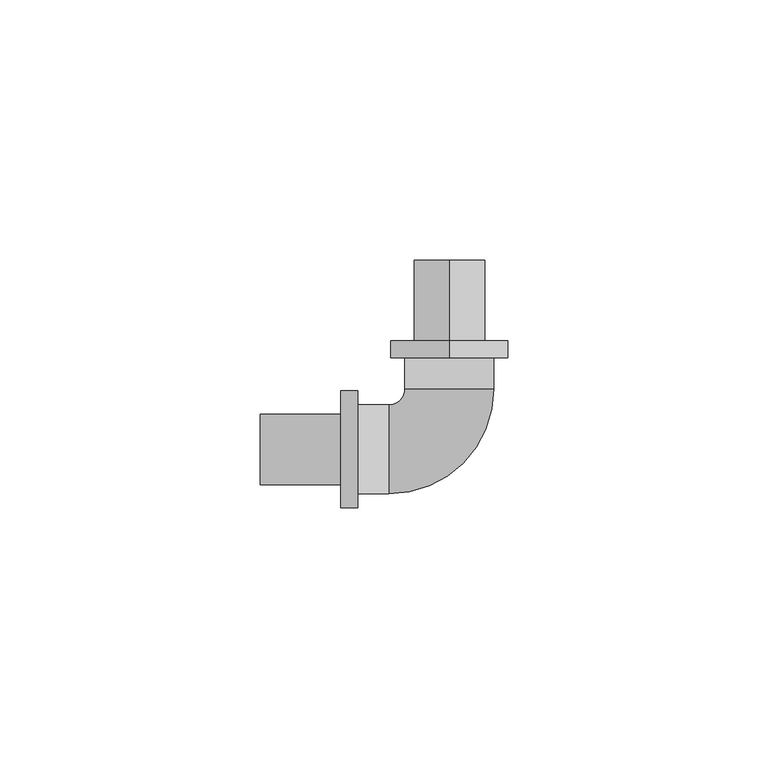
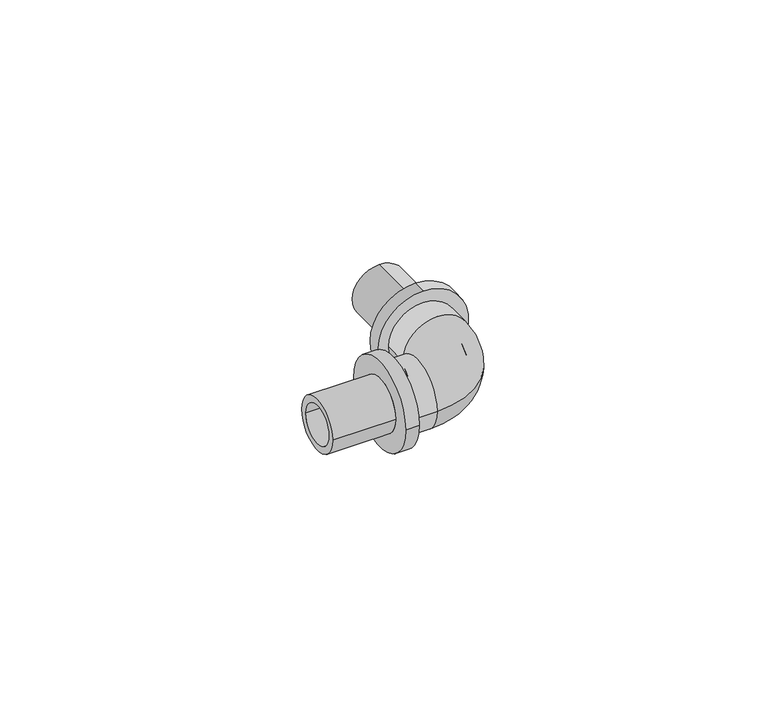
"""IFC4 building model written with IfcOpenShell, lengths in millimetres: pipe fitting geometry, RAUTITAN_Corner_RX+ : RTI RX+ C DE."""

from ifc_helpers import new_model, si_unit, point, frame, origin, place, context, project, spatial, polyline, circle_curve, ellipse_curve, trimmed, source, transform, mapped, element, save
from ifc_brep_helpers import plane_surface, cylinder_surface, revolved_surface, advanced_brep


def pipe_fitting_bdc09fba(model_context):
    return source(origin(), model_context, "Body", "AdvancedBrep", [
        advanced_brep(
        [(-17.6, 8.55, 0.0), (-17.6, -8.55, 0.0), (-17.6, 4.95, 0.0), (-17.6, -4.95, 0.0), (-11.65, -4.95, 0.0), (-11.65, 0.0, -4.95), (-11.65, 4.95, 0.0), (-11.65, 0.0, 4.95), (-11.65, -8.55, 0.0), (-11.65, 8.55, 0.0), (8.55, 17.6, 0.0), (-8.55, 17.6, 0.0), (4.95, 17.6, 0.0), (-4.95, 17.6, 0.0), (-4.95, 11.65, 0.0), (0.0, 11.65, -4.95), (4.95, 11.65, 0.0), (0.0, 11.65, 4.95), (-8.55, 11.65, 0.0), (8.55, 11.65, 0.0)],
        [
            (0, 1, circle_curve(frame((-17.6, 0.0, 0.0), z_axis=(-1.0, 0.0, 0.0), x_axis=(0.0, -1.0, 0.0)), 8.55)),
            (1, 0, circle_curve(frame((-17.6, 0.0, 0.0), z_axis=(-1.0, 0.0, 0.0), x_axis=(0.0, -1.0, 0.0)), 8.55)),
            (2, 3, circle_curve(frame((-17.6, 0.0, 0.0), z_axis=(1.0, 0.0, 0.0), x_axis=(0.0, -1.0, 0.0)), 4.95)),
            (3, 2, circle_curve(frame((-17.6, 0.0, 0.0), z_axis=(1.0, 0.0, 0.0), x_axis=(0.0, -1.0, 0.0)), 4.95)),
            (3, 4),
            (4, 5, circle_curve(frame((-11.65, 0.0, 0.0), z_axis=(1.0, 0.0, 0.0), x_axis=(0.0, -1.0, 0.0)), 4.95)),
            (5, 6, circle_curve(frame((-11.65, 0.0, 0.0), z_axis=(1.0, 0.0, 0.0), x_axis=(0.0, -1.0, 0.0)), 4.95)),
            (6, 2),
            (6, 7, circle_curve(frame((-11.65, 0.0, 0.0), z_axis=(1.0, 0.0, 0.0), x_axis=(0.0, -1.0, 0.0)), 4.95)),
            (7, 4, circle_curve(frame((-11.65, 0.0, 0.0), z_axis=(1.0, 0.0, 0.0), x_axis=(0.0, -1.0, 0.0)), 4.95)),
            (1, 8),
            (8, 9, circle_curve(frame((-11.65, 0.0, 0.0), z_axis=(-1.0, 0.0, 0.0), x_axis=(0.0, -1.0, 0.0)), 8.55)),
            (9, 0),
            (9, 8, circle_curve(frame((-11.65, 0.0, 0.0), z_axis=(-1.0, 0.0, 0.0), x_axis=(0.0, -1.0, 0.0)), 8.55)),
            (10, 11, circle_curve(frame((0.0, 17.6, 0.0), z_axis=(0.0, 1.0, 0.0), x_axis=(-1.0, 0.0, 0.0)), 8.55)),
            (11, 10, circle_curve(frame((0.0, 17.6, 0.0), z_axis=(0.0, 1.0, 0.0), x_axis=(-1.0, 0.0, 0.0)), 8.55)),
            (12, 13, circle_curve(frame((0.0, 17.6, 0.0), z_axis=(0.0, -1.0, 0.0), x_axis=(-1.0, 0.0, 0.0)), 4.95)),
            (13, 12, circle_curve(frame((0.0, 17.6, 0.0), z_axis=(0.0, -1.0, 0.0), x_axis=(-1.0, 0.0, 0.0)), 4.95)),
            (13, 14),
            (14, 15, circle_curve(frame((0.0, 11.65, 0.0), z_axis=(0.0, -1.0, 0.0), x_axis=(-1.0, 0.0, 0.0)), 4.95)),
            (15, 16, circle_curve(frame((0.0, 11.65, 0.0), z_axis=(0.0, -1.0, 0.0), x_axis=(-1.0, 0.0, 0.0)), 4.95)),
            (16, 12),
            (16, 17, circle_curve(frame((0.0, 11.65, 0.0), z_axis=(0.0, -1.0, 0.0), x_axis=(-1.0, 0.0, 0.0)), 4.95)),
            (17, 14, circle_curve(frame((0.0, 11.65, 0.0), z_axis=(0.0, -1.0, 0.0), x_axis=(-1.0, 0.0, 0.0)), 4.95)),
            (11, 18),
            (18, 19, circle_curve(frame((0.0, 11.65, 0.0), z_axis=(0.0, 1.0, 0.0), x_axis=(-1.0, 0.0, 0.0)), 8.55)),
            (19, 10),
            (19, 18, circle_curve(frame((0.0, 11.65, 0.0), z_axis=(0.0, 1.0, 0.0), x_axis=(-1.0, 0.0, 0.0)), 8.55)),
            (14, 6, circle_curve(frame((-11.65, 11.65, 0.0), z_axis=(0.0, 0.0, -1.0), x_axis=(0.0, -1.0, 0.0)), 6.7)),
            (4, 16, circle_curve(frame((-11.65, 11.65, 0.0), z_axis=(0.0, 0.0, 1.0), x_axis=(0.0, -1.0, 0.0)), 16.6)),
            (18, 9, circle_curve(frame((-11.65, 11.65, 0.0), z_axis=(0.0, 0.0, -1.0), x_axis=(0.0, -1.0, 0.0)), 3.1)),
            (8, 19, circle_curve(frame((-11.65, 11.65, 0.0), z_axis=(0.0, 0.0, 1.0), x_axis=(0.0, -1.0, 0.0)), 20.2)),
        ],
        [
            plane_surface(frame((-17.6, 0.0, 0.0), z_axis=(-1.0, 0.0, 0.0), x_axis=(0.0, 0.0, 1.0))),
            revolved_surface(polyline([(-17.6, -4.95, 0.0), (-11.65, -4.95, 0.0)]), (-11.65, 0.0, 0.0), (-1.0, 0.0, 0.0)),
            cylinder_surface(frame((-11.65, 0.0, 0.0), z_axis=(1.0, 0.0, 0.0), x_axis=(0.0, -1.0, 0.0)), 8.55),
            plane_surface(frame((0.0, 17.6, 0.0), z_axis=(0.0, 1.0, 0.0), x_axis=(0.0, 0.0, 1.0))),
            revolved_surface(polyline([(-4.95, 17.6, 0.0), (-4.95, 11.65, 0.0)]), (0.0, 11.65, 0.0), (0.0, 1.0, 0.0)),
            cylinder_surface(frame((0.0, 11.65, 0.0), z_axis=(0.0, -1.0, 0.0), x_axis=(-1.0, 0.0, 0.0)), 8.55),
            revolved_surface(trimmed(ellipse_curve(frame((-11.65, 0.0, 0.0), z_axis=(1.0, 0.0, 0.0), x_axis=(0.0, 1.0, 0.0)), 4.95, 4.95), [point((-11.65, -4.95, 0.0))], [point((-11.65, 4.95, 0.0))], True, "CARTESIAN"), (-11.65, 11.65, 0.0), (0.0, 0.0, 1.0)),
            revolved_surface(trimmed(ellipse_curve(frame((-11.65, 0.0, 0.0), z_axis=(1.0, 0.0, 0.0), x_axis=(0.0, 1.0, 0.0)), 4.95, 4.95), [point((-11.65, 4.95, 0.0))], [point((-11.65, -4.95, 0.0))], True, "CARTESIAN"), (-11.65, 11.65, 0.0), (0.0, 0.0, 1.0)),
            revolved_surface(trimmed(ellipse_curve(frame((-11.65, 0.0, 0.0), z_axis=(-1.0, 0.0, 0.0), x_axis=(0.0, 1.0, 0.0)), 8.55, 8.55), [point((-11.65, -8.55, 0.0))], [point((-11.65, 8.55, 0.0))], True, "CARTESIAN"), (-11.65, 11.65, 0.0), (0.0, 0.0, 1.0)),
            revolved_surface(trimmed(ellipse_curve(frame((-11.65, 0.0, 0.0), z_axis=(-1.0, 0.0, 0.0), x_axis=(0.0, 1.0, 0.0)), 8.55, 8.55), [point((-11.65, 8.55, 0.0))], [point((-11.65, -8.55, 0.0))], True, "CARTESIAN"), (-11.65, 11.65, 0.0), (0.0, 0.0, 1.0)),
        ],
        [
            (0, [[1, 2], [3, 4]]),
            (1, [[-4, 5, 6, 7, 8]]),
            (1, [[-3, -8, 9, 10, -5]]),
            (2, [[-2, 11, 12, 13]]),
            (2, [[-1, -13, 14, -11]]),
            (3, [[15, 16], [17, 18]]),
            (4, [[-18, 19, 20, 21, 22]]),
            (4, [[-17, -22, 23, 24, -19]]),
            (5, [[-16, 25, 26, 27]]),
            (5, [[-15, -27, 28, -25]]),
            (6, [[29, -7, -6, 30, -21, -20]]),
            (7, [[-29, -24, -23, -30, -10, -9]]),
            (8, [[31, -12, 32, -26]]),
            (9, [[-31, -28, -32, -14]]),
        ],
    ),
        advanced_brep(
        [(-20.9, -11.25, 0.0), (-20.9, 11.25, 0.0), (-17.6, 11.25, 0.0), (-17.6, -11.25, 0.0), (-36.4, -6.75, 0.0), (-36.4, 6.75, 0.0), (-20.9, 6.75, 0.0), (-20.9, -6.75, 0.0), (-17.6, -4.95, 0.0), (-17.6, 4.95, 0.0), (-36.4, 4.95, 0.0), (-36.4, -4.95, 0.0)],
        [
            (0, 1, circle_curve(frame((-20.9, 0.0, 0.0), z_axis=(1.0, 0.0, 0.0), x_axis=(0.0, 1.0, 0.0)), 11.25)),
            (1, 2),
            (2, 3, circle_curve(frame((-17.6, 0.0, 0.0), z_axis=(-1.0, 0.0, 0.0), x_axis=(0.0, 1.0, 0.0)), 11.25)),
            (3, 0),
            (4, 5, circle_curve(frame((-36.4, 0.0, 0.0), z_axis=(1.0, 0.0, 0.0), x_axis=(0.0, 1.0, 0.0)), 6.75)),
            (5, 6),
            (6, 7, circle_curve(frame((-20.9, 0.0, 0.0), z_axis=(-1.0, 0.0, 0.0), x_axis=(0.0, 1.0, 0.0)), 6.75)),
            (7, 4),
            (8, 9, circle_curve(frame((-17.6, 0.0, 0.0), z_axis=(1.0, 0.0, 0.0), x_axis=(0.0, 1.0, 0.0)), 4.95)),
            (9, 10),
            (10, 11, circle_curve(frame((-36.4, 0.0, 0.0), z_axis=(-1.0, 0.0, 0.0), x_axis=(0.0, 1.0, 0.0)), 4.95)),
            (11, 8),
            (1, 0, circle_curve(frame((-20.9, 0.0, 0.0), z_axis=(1.0, 0.0, 0.0), x_axis=(0.0, -1.0, 0.0)), 11.25)),
            (3, 2, circle_curve(frame((-17.6, 0.0, 0.0), z_axis=(-1.0, 0.0, 0.0), x_axis=(0.0, -1.0, 0.0)), 11.25)),
            (6, 7, circle_curve(frame((-20.9, 0.0, 0.0), z_axis=(1.0, 0.0, 0.0), x_axis=(0.0, -1.0, 0.0)), 6.75)),
            (5, 4, circle_curve(frame((-36.4, 0.0, 0.0), z_axis=(1.0, 0.0, 0.0), x_axis=(0.0, -1.0, 0.0)), 6.75)),
            (10, 11, circle_curve(frame((-36.4, 0.0, 0.0), z_axis=(1.0, 0.0, 0.0), x_axis=(0.0, -1.0, 0.0)), 4.95)),
            (9, 8, circle_curve(frame((-17.6, 0.0, 0.0), z_axis=(1.0, 0.0, 0.0), x_axis=(0.0, -1.0, 0.0)), 4.95)),
        ],
        [
            cylinder_surface(frame((-17.6, 0.0, 0.0), z_axis=(-1.0, 0.0, 0.0), x_axis=(0.0, 1.0, 0.0)), 11.25),
            cylinder_surface(frame((-17.6, 0.0, 0.0), z_axis=(-1.0, 0.0, 0.0), x_axis=(0.0, 1.0, 0.0)), 6.75),
            revolved_surface(polyline([(-36.4, 4.95, 0.0), (-17.6, 4.95, 0.0)]), (-17.6, 0.0, 0.0), (-1.0, 0.0, 0.0)),
            cylinder_surface(frame((-17.6, 0.0, 0.0), z_axis=(-1.0, 0.0, 0.0), x_axis=(0.0, -1.0, 0.0)), 11.25),
            plane_surface(frame((-20.9, 0.0, 0.0), z_axis=(-1.0, 0.0, 0.0), x_axis=(0.0, -1.0, 0.0))),
            cylinder_surface(frame((-17.6, 0.0, 0.0), z_axis=(-1.0, 0.0, 0.0), x_axis=(0.0, -1.0, 0.0)), 6.75),
            plane_surface(frame((-36.4, 0.0, 0.0), z_axis=(-1.0, 0.0, 0.0), x_axis=(0.0, -1.0, 0.0))),
            revolved_surface(polyline([(-36.4, -4.95, 0.0), (-17.6, -4.95, 0.0)]), (-17.6, 0.0, 0.0), (-1.0, 0.0, 0.0)),
            plane_surface(frame((-17.6, 0.0, 0.0), z_axis=(1.0, 0.0, 0.0), x_axis=(0.0, -1.0, 0.0))),
        ],
        [
            (0, [[1, 2, 3, 4]]),
            (1, [[5, 6, 7, 8]]),
            (2, [[9, 10, 11, 12]]),
            (3, [[13, -4, 14, -2]]),
            (4, [[-13, -1], [15, -7]]),
            (5, [[16, -8, -15, -6]]),
            (6, [[-16, -5], [17, -11]]),
            (7, [[18, -12, -17, -10]]),
            (8, [[-14, -3], [-18, -9]]),
        ],
    ),
        advanced_brep(
        [(0.0, 20.9, 11.6749044), (0.0, 20.9, -10.8250956), (0.0, 17.6, -10.8250956), (0.0, 17.6, 11.6749044), (0.0, 36.4, 7.1749044), (0.0, 36.4, -6.3250956), (0.0, 20.9, -6.3250956), (0.0, 20.9, 7.1749044), (0.0, 17.6, 5.3749044), (0.0, 17.6, -4.5250956), (0.0, 36.4, -4.5250956), (0.0, 36.4, 5.3749044)],
        [
            (0, 1, circle_curve(frame((0.0, 20.9, 0.4249044), z_axis=(0.0, -1.0, 0.0), x_axis=(0.0, 0.0, -1.0)), 11.25)),
            (1, 2),
            (2, 3, circle_curve(frame((0.0, 17.6, 0.4249044), z_axis=(0.0, 1.0, 0.0), x_axis=(0.0, 0.0, -1.0)), 11.25)),
            (3, 0),
            (4, 5, circle_curve(frame((0.0, 36.4, 0.4249044), z_axis=(0.0, -1.0, 0.0), x_axis=(0.0, 0.0, -1.0)), 6.75)),
            (5, 6),
            (6, 7, circle_curve(frame((0.0, 20.9, 0.4249044), z_axis=(0.0, 1.0, 0.0), x_axis=(0.0, 0.0, -1.0)), 6.75)),
            (7, 4),
            (8, 9, circle_curve(frame((0.0, 17.6, 0.4249044), z_axis=(0.0, -1.0, 0.0), x_axis=(0.0, 0.0, -1.0)), 4.95)),
            (9, 10),
            (10, 11, circle_curve(frame((0.0, 36.4, 0.4249044), z_axis=(0.0, 1.0, 0.0), x_axis=(0.0, 0.0, -1.0)), 4.95)),
            (11, 8),
            (1, 0, circle_curve(frame((0.0, 20.9, 0.4249044), z_axis=(0.0, -1.0, 0.0), x_axis=(0.0, 0.0, 1.0)), 11.25)),
            (3, 2, circle_curve(frame((0.0, 17.6, 0.4249044), z_axis=(0.0, 1.0, 0.0), x_axis=(0.0, 0.0, 1.0)), 11.25)),
            (6, 7, circle_curve(frame((0.0, 20.9, 0.4249044), z_axis=(0.0, -1.0, 0.0), x_axis=(0.0, 0.0, 1.0)), 6.75)),
            (5, 4, circle_curve(frame((0.0, 36.4, 0.4249044), z_axis=(0.0, -1.0, 0.0), x_axis=(0.0, 0.0, 1.0)), 6.75)),
            (10, 11, circle_curve(frame((0.0, 36.4, 0.4249044), z_axis=(0.0, -1.0, 0.0), x_axis=(0.0, 0.0, 1.0)), 4.95)),
            (9, 8, circle_curve(frame((0.0, 17.6, 0.4249044), z_axis=(0.0, -1.0, 0.0), x_axis=(0.0, 0.0, 1.0)), 4.95)),
        ],
        [
            cylinder_surface(frame((0.0, 17.6, 0.4249044), z_axis=(0.0, 1.0, 0.0), x_axis=(0.0, 0.0, -1.0)), 11.25),
            cylinder_surface(frame((0.0, 17.6, 0.4249044), z_axis=(0.0, 1.0, 0.0), x_axis=(0.0, 0.0, -1.0)), 6.75),
            revolved_surface(polyline([(0.0, 36.4, -4.5250956), (0.0, 17.6, -4.5250956)]), (0.0, 17.6, 0.4249044), (0.0, 1.0, 0.0)),
            cylinder_surface(frame((0.0, 17.6, 0.4249044), z_axis=(0.0, 1.0, 0.0), x_axis=(0.0, 0.0, 1.0)), 11.25),
            plane_surface(frame((0.0, 20.9, 0.4249044), z_axis=(0.0, 1.0, 0.0), x_axis=(0.0, 0.0, 1.0))),
            cylinder_surface(frame((0.0, 17.6, 0.4249044), z_axis=(0.0, 1.0, 0.0), x_axis=(0.0, 0.0, 1.0)), 6.75),
            plane_surface(frame((0.0, 36.4, 0.4249044), z_axis=(0.0, 1.0, 0.0), x_axis=(0.0, 0.0, 1.0))),
            revolved_surface(polyline([(0.0, 36.4, 5.3749044), (0.0, 17.6, 5.3749044)]), (0.0, 17.6, 0.4249044), (0.0, 1.0, 0.0)),
            plane_surface(frame((0.0, 17.6, 0.4249044), z_axis=(0.0, -1.0, 0.0), x_axis=(0.0, 0.0, 1.0))),
        ],
        [
            (0, [[1, 2, 3, 4]]),
            (1, [[5, 6, 7, 8]]),
            (2, [[9, 10, 11, 12]]),
            (3, [[13, -4, 14, -2]]),
            (4, [[-13, -1], [15, -7]]),
            (5, [[16, -8, -15, -6]]),
            (6, [[-16, -5], [17, -11]]),
            (7, [[18, -12, -17, -10]]),
            (8, [[-14, -3], [-18, -9]]),
        ],
    ),
    ])


if __name__ == "__main__":
    model = new_model("IFC4")
    model_context = context("Model", 3, world=origin())
    ifc_project = project(units=[si_unit("LENGTHUNIT", "METRE", prefix="MILLI")], contexts=[model_context])
    site = spatial("IfcSite", under=ifc_project)
    building = spatial("IfcBuilding", under=site)
    placement = place(None, origin())
    pipe_fitting_shape = pipe_fitting_bdc09fba(model_context)
    element("IfcPipeFitting", 1, ObjectType="RAUTITAN_Corner_RX+ : RTI RX+ C DE", at=placement, inside=building, context=model_context, shape_type="MappedRepresentation", body=[
        mapped(pipe_fitting_shape, transform((0.0, 0.0, 0.0), x_axis=(1.0, 0.0, 0.0), y_axis=(0.0, 1.0, 0.0), z_axis=(0.0, 0.0, 1.0))),
    ])
    save(model, "model.ifc")
